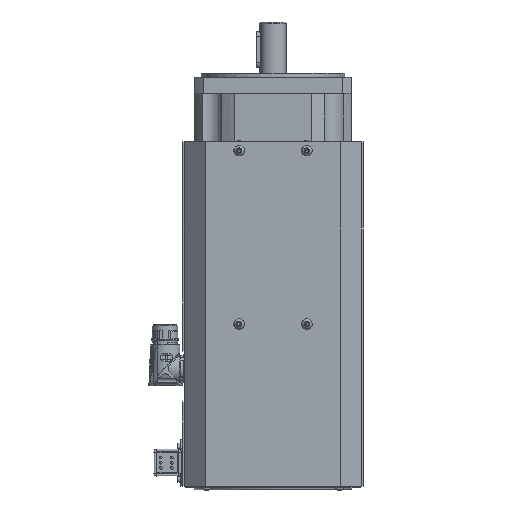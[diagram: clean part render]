
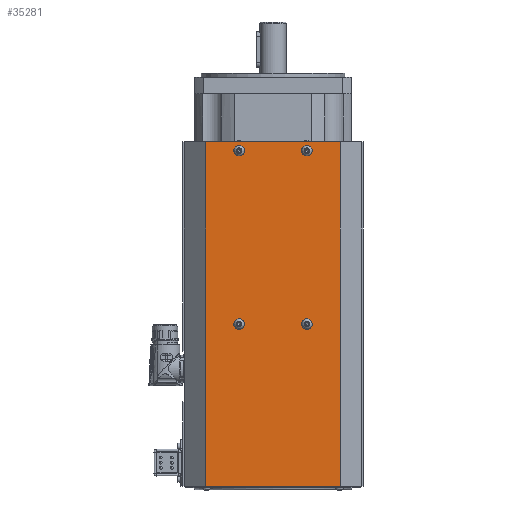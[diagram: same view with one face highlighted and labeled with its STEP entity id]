
A CAD part, left-side view. The second image highlights one B-rep face of the part: STEP entity #35281.
In plain terms, the highlighted planar face has unit normal (-1, 0, 0).
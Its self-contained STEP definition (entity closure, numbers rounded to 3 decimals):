
#3915=LINE('',#68777,#5656);
#3926=LINE('',#68796,#5667);
#3927=LINE('',#68798,#5668);
#3928=LINE('',#68799,#5669);
#5656=VECTOR('',#47750,312.);
#5667=VECTOR('',#47769,312.);
#5668=VECTOR('',#47772,121.6);
#5669=VECTOR('',#47773,121.6);
#8540=FACE_BOUND('',#13313,.T.);
#8541=FACE_BOUND('',#13314,.T.);
#8542=FACE_BOUND('',#13315,.T.);
#8543=FACE_BOUND('',#13316,.T.);
#8544=FACE_BOUND('',#13317,.T.);
#13313=EDGE_LOOP('',(#31757));
#13314=EDGE_LOOP('',(#31758));
#13315=EDGE_LOOP('',(#31759));
#13316=EDGE_LOOP('',(#31760));
#13317=EDGE_LOOP('',(#31761,#31762,#31763,#31764));
#14779=CIRCLE('',#38300,4.75);
#14793=CIRCLE('',#38335,4.75);
#14807=CIRCLE('',#38370,4.75);
#14821=CIRCLE('',#38405,4.75);
#17794=VERTEX_POINT('',#66886);
#17814=VERTEX_POINT('',#66971);
#17834=VERTEX_POINT('',#67056);
#17854=VERTEX_POINT('',#67141);
#18280=VERTEX_POINT('',#68774);
#18281=VERTEX_POINT('',#68776);
#18284=VERTEX_POINT('',#68792);
#18285=VERTEX_POINT('',#68794);
#22084=EDGE_CURVE('',#17794,#17794,#14779,.T.);
#22116=EDGE_CURVE('',#17814,#17814,#14793,.T.);
#22148=EDGE_CURVE('',#17834,#17834,#14807,.T.);
#22180=EDGE_CURVE('',#17854,#17854,#14821,.T.);
#22815=EDGE_CURVE('',#18280,#18281,#3915,.T.);
#22826=EDGE_CURVE('',#18284,#18285,#3926,.T.);
#22827=EDGE_CURVE('',#18284,#18280,#3927,.T.);
#22828=EDGE_CURVE('',#18285,#18281,#3928,.T.);
#31757=ORIENTED_EDGE('',*,*,#22084,.T.);
#31758=ORIENTED_EDGE('',*,*,#22116,.T.);
#31759=ORIENTED_EDGE('',*,*,#22148,.T.);
#31760=ORIENTED_EDGE('',*,*,#22180,.T.);
#31761=ORIENTED_EDGE('',*,*,#22827,.F.);
#31762=ORIENTED_EDGE('',*,*,#22826,.T.);
#31763=ORIENTED_EDGE('',*,*,#22828,.T.);
#31764=ORIENTED_EDGE('',*,*,#22815,.F.);
#33259=PLANE('',#38942);
#35281=ADVANCED_FACE('',(#8540,#8541,#8542,#8543,#8544),#33259,.T.);
#38300=AXIS2_PLACEMENT_3D('',#66887,#46083,#46084);
#38335=AXIS2_PLACEMENT_3D('',#66972,#46165,#46166);
#38370=AXIS2_PLACEMENT_3D('',#67057,#46247,#46248);
#38405=AXIS2_PLACEMENT_3D('',#67142,#46329,#46330);
#38942=AXIS2_PLACEMENT_3D('',#68797,#47770,#47771);
#46083=DIRECTION('center_axis',(1.,0.,0.));
#46084=DIRECTION('ref_axis',(0.,0.,-1.));
#46165=DIRECTION('center_axis',(1.,0.,0.));
#46166=DIRECTION('ref_axis',(0.,0.,-1.));
#46247=DIRECTION('center_axis',(1.,0.,0.));
#46248=DIRECTION('ref_axis',(0.,0.,-1.));
#46329=DIRECTION('center_axis',(1.,0.,0.));
#46330=DIRECTION('ref_axis',(0.,0.,-1.));
#47750=DIRECTION('',(0.,0.,-1.));
#47769=DIRECTION('',(0.,0.,-1.));
#47770=DIRECTION('center_axis',(-1.,0.,0.));
#47771=DIRECTION('ref_axis',(0.,1.,0.));
#47772=DIRECTION('',(0.,-1.,0.));
#47773=DIRECTION('',(0.,-1.,0.));
#66886=CARTESIAN_POINT('',(-80.2,-30.65,-203.75));
#66887=CARTESIAN_POINT('Origin',(-80.2,-30.65,-208.5));
#66971=CARTESIAN_POINT('',(-80.2,30.65,-203.75));
#66972=CARTESIAN_POINT('Origin',(-80.2,30.65,-208.5));
#67056=CARTESIAN_POINT('',(-80.2,-30.65,-46.75));
#67057=CARTESIAN_POINT('Origin',(-80.2,-30.65,-51.5));
#67141=CARTESIAN_POINT('',(-80.2,30.65,-46.75));
#67142=CARTESIAN_POINT('Origin',(-80.2,30.65,-51.5));
#68774=CARTESIAN_POINT('',(-80.2,-60.8,-43.5));
#68776=CARTESIAN_POINT('',(-80.2,-60.8,-355.5));
#68777=CARTESIAN_POINT('',(-80.2,-60.8,-43.5));
#68792=CARTESIAN_POINT('',(-80.2,60.8,-43.5));
#68794=CARTESIAN_POINT('',(-80.2,60.8,-355.5));
#68796=CARTESIAN_POINT('',(-80.2,60.8,-43.5));
#68797=CARTESIAN_POINT('Origin',(-80.2,0.,-43.5));
#68798=CARTESIAN_POINT('',(-80.2,60.8,-43.5));
#68799=CARTESIAN_POINT('',(-80.2,-60.8,-355.5));
